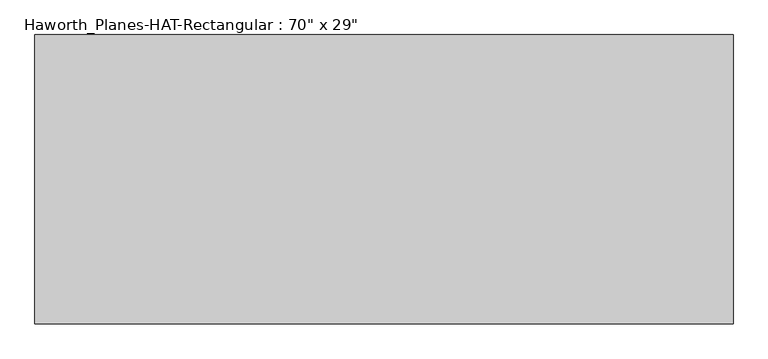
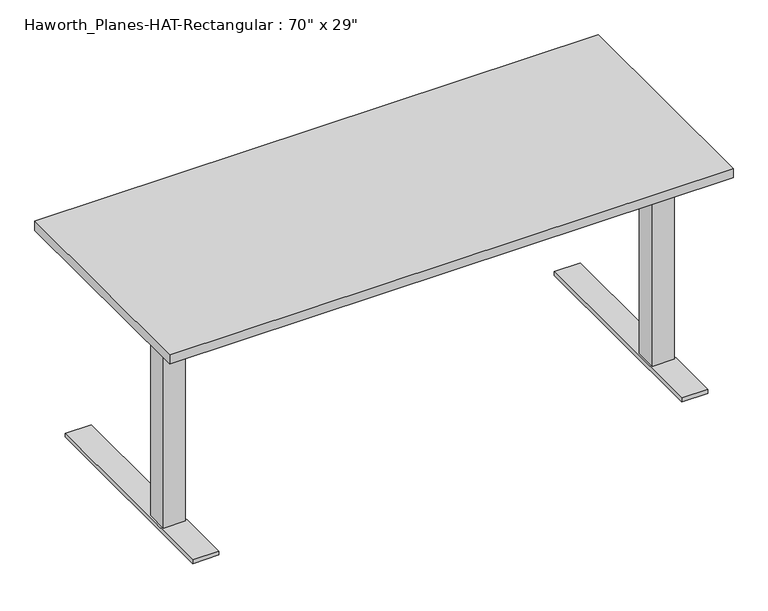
"""IFC4 building model written with IfcOpenShell, lengths in millimetres: furniture geometry."""

from ifc_helpers import new_model, si_unit, point, frame, frame_2d, origin, origin_with_axes, place, context, project, spatial, polyline, circle_curve, trimmed, segment, composite_curve, outline, extrude, faceted_brep, source, transform, mapped, element, save


def furniture_73a514d5(model_context):
    return source(origin(), model_context, "Body", "SolidModel", [
        extrude(outline(polyline([(741.3625, -185.7375), (741.3625, -125.4125), (801.6875, -125.4125), (801.6875, -185.7375), (741.3625, -185.7375)])), frame((0.0, 0.0, 598.4875), z_axis=(0.0, 0.0, 1.0), x_axis=(1.0, 0.0, 0.0)), (0.0, 0.0, 1.0), 107.95),
        faceted_brep([(730.25, -361.95, 9.525), (730.25, -361.95, 22.225), (730.25, 334.9625, 22.225), (730.25, 334.9625, 9.525), (812.8, -361.95, 9.525), (812.8, 334.9625, 9.525), (812.8, 334.9625, 22.225), (812.8, -361.95, 22.225), (736.6, -190.5, 598.4875), (806.45, -190.5, 598.4875), (806.45, -120.65, 598.4875), (736.6, -120.65, 598.4875), (736.6, -190.5, 22.225), (806.45, -190.5, 22.225), (806.45, -120.65, 22.225), (736.6, -120.65, 22.225)], [[[0, 1, 2, 3]], [[4, 5, 6, 7]], [[0, 3, 5, 4]], [[8, 9, 10, 11]], [[9, 8, 12, 13]], [[10, 9, 13, 14]], [[11, 10, 14, 15]], [[8, 11, 15, 12]], [[1, 0, 4, 7]], [[2, 1, 7, 6], [13, 12, 15, 14]], [[3, 2, 6, 5]]]),
        extrude(outline(polyline([(-317.5, 706.4375), (241.3, 706.4375), (241.3, 698.5), (-60.8782415, 639.7625), (-175.5257579, 639.7625), (-317.5, 697.1238172), (-317.5, 706.4375)])), frame((806.45, 0.0, 0.0), z_axis=(1.0, 0.0, 0.0), x_axis=(0.0, 1.0, 0.0)), (0.0, 0.0, 1.0), 3.175),
        extrude(outline(composite_curve([segment(trimmed(circle_curve(frame_2d((771.525, -293.6875)), 28.5342152), [point((800.0592152, -293.6875))], [point((742.9907848, -293.6875))], False, "CARTESIAN"), True, "CONTINUOUS"), segment(trimmed(circle_curve(frame_2d((771.525, -293.6875)), 28.5342152), [point((742.9907848, -293.6875))], [point((800.0592152, -293.6875))], False, "CARTESIAN"), True, "CONTINUOUS")], self_intersect=False)), origin_with_axes(), (0.0, 0.0, 1.0), 9.525),
        extrude(outline(composite_curve([segment(trimmed(circle_curve(frame_2d((771.525, 228.6)), 28.6553383), [point((800.1803383, 228.6))], [point((742.8696617, 228.6))], False, "CARTESIAN"), True, "CONTINUOUS"), segment(trimmed(circle_curve(frame_2d((771.525, 228.6)), 28.6553383), [point((742.8696617, 228.6))], [point((800.1803383, 228.6))], False, "CARTESIAN"), True, "CONTINUOUS")], self_intersect=False)), origin_with_axes(), (0.0, 0.0, 1.0), 9.525),
        extrude(outline(polyline([(-741.3625, -185.7375), (-801.6875, -185.7375), (-801.6875, -125.4125), (-741.3625, -125.4125), (-741.3625, -185.7375)])), frame((0.0, 0.0, 598.4875), z_axis=(0.0, 0.0, 1.0), x_axis=(1.0, 0.0, 0.0)), (0.0, 0.0, 1.0), 107.95),
        faceted_brep([(-730.25, -361.95, 9.525), (-730.25, 334.9625, 9.525), (-730.25, 334.9625, 22.225), (-730.25, -361.95, 22.225), (-812.8, -361.95, 9.525), (-812.8, -361.95, 22.225), (-812.8, 334.9625, 22.225), (-812.8, 334.9625, 9.525), (-736.6, -190.5, 598.4875), (-736.6, -120.65, 598.4875), (-806.45, -120.65, 598.4875), (-806.45, -190.5, 598.4875), (-806.45, -190.5, 22.225), (-736.6, -190.5, 22.225), (-806.45, -120.65, 22.225), (-736.6, -120.65, 22.225)], [[[0, 1, 2, 3]], [[4, 5, 6, 7]], [[0, 4, 7, 1]], [[8, 9, 10, 11]], [[11, 12, 13, 8]], [[10, 14, 12, 11]], [[9, 15, 14, 10]], [[8, 13, 15, 9]], [[3, 5, 4, 0]], [[2, 6, 5, 3], [12, 14, 15, 13]], [[1, 7, 6, 2]]]),
        extrude(outline(polyline([(-317.5, 706.4375), (241.3, 706.4375), (241.3, 698.5), (-60.8782415, 639.7625), (-175.5257579, 639.7625), (-317.5, 697.1238172), (-317.5, 706.4375)])), frame((-809.625, 0.0, 0.0), z_axis=(1.0, 0.0, 0.0), x_axis=(0.0, 1.0, 0.0)), (0.0, 0.0, 1.0), 3.175),
        extrude(outline(composite_curve([segment(trimmed(circle_curve(frame_2d((-771.525, -293.6875)), 28.5342152), [point((-800.0592152, -293.6875))], [point((-742.9907848, -293.6875))], False, "CARTESIAN"), True, "CONTINUOUS"), segment(trimmed(circle_curve(frame_2d((-771.525, -293.6875)), 28.5342152), [point((-742.9907848, -293.6875))], [point((-800.0592152, -293.6875))], False, "CARTESIAN"), True, "CONTINUOUS")], self_intersect=False)), origin_with_axes(), (0.0, 0.0, 1.0), 9.525),
        extrude(outline(composite_curve([segment(trimmed(circle_curve(frame_2d((-771.525, 228.6)), 28.6553383), [point((-800.1803383, 228.6))], [point((-742.8696617, 228.6))], False, "CARTESIAN"), True, "CONTINUOUS"), segment(trimmed(circle_curve(frame_2d((-771.525, 228.6)), 28.6553383), [point((-742.8696617, 228.6))], [point((-800.1803383, 228.6))], False, "CARTESIAN"), True, "CONTINUOUS")], self_intersect=False)), origin_with_axes(), (0.0, 0.0, 1.0), 9.525),
        extrude(outline(polyline([(889.0, -368.3), (-889.0, -368.3), (-889.0, 368.3), (889.0, 368.3), (889.0, -368.3)])), frame((0.0, 0.0, 706.4375), z_axis=(0.0, 0.0, 1.0), x_axis=(1.0, 0.0, 0.0)), (0.0, 0.0, 1.0), 30.1625),
        extrude(outline(polyline([(-212.725, 692.15), (-234.95, 692.15), (-234.95, 706.4375), (-76.2, 706.4375), (-76.2, 692.15), (-98.425, 692.15), (-98.425, 652.4625), (-212.725, 652.4625), (-212.725, 692.15)])), frame((-806.45, 0.0, 0.0), z_axis=(1.0, 0.0, 0.0), x_axis=(0.0, 1.0, 0.0)), (0.0, 0.0, 1.0), 1612.9),
    ])


if __name__ == "__main__":
    model = new_model("IFC4")
    model_context = context("Model", 3, world=origin())
    ifc_project = project(units=[si_unit("LENGTHUNIT", "METRE", prefix="MILLI")], contexts=[model_context])
    site = spatial("IfcSite", under=ifc_project)
    building = spatial("IfcBuilding", under=site)
    placement = place(None, origin())
    furniture_shape = furniture_73a514d5(model_context)
    element("IfcFurniture", 1, ObjectType="Haworth_Planes-HAT-Rectangular : 70\" x 29\"", at=placement, inside=building, context=model_context, shape_type="MappedRepresentation", body=[
        mapped(furniture_shape, transform((0.0, 0.0, 0.0), x_axis=(1.0, 0.0, 0.0), y_axis=(0.0, 1.0, 0.0), z_axis=(0.0, 0.0, 1.0))),
    ])
    save(model, "model.ifc")
